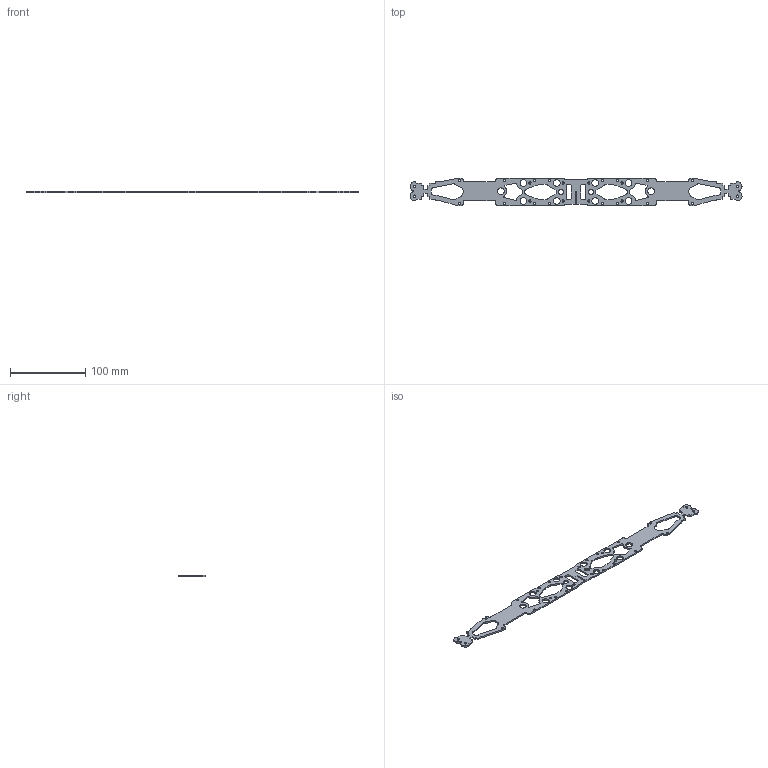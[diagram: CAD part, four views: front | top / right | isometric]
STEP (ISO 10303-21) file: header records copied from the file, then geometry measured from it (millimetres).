
FILE_DESCRIPTION((''),'2;1');
FILE_NAME('D:\Universal Air\Development\R10\CAD\V5\CAD Release 1\Diagonal.stp','2013-06-02T10:26:04',('Henry'),(''),'Autodesk Inventor 2013','Autodesk Inventor 2013','');
FILE_SCHEMA(('AUTOMOTIVE_DESIGN { 1 0 10303 214 1 1 1 1 }'));
Length unit declared in the file: millimetre
Products named in the file (1): Diagonal
Bounding box: 441.73 x 36.13 x 2 mm (x, y, z)
Volume: 17625.6 mm3; surface area: 22300.3 mm2
Topology: 1 solids, 1 shells, 318 faces, 988 edges, 672 vertices
Faces by surface type: cylinder 184, plane 134
Full cylindrical faces by diameter (mm): 3.1 x20, 3.2 x8, 6.35 x2, 9 x10
Entity records: 10838 total; most frequent: DIRECTION 1914, CARTESIAN_POINT 1859, ORIENTED_EDGE 1816, EDGE_CURVE 908, AXIS2_PLACEMENT_3D 687, VERTEX_POINT 632, VECTOR 540, LINE 540
